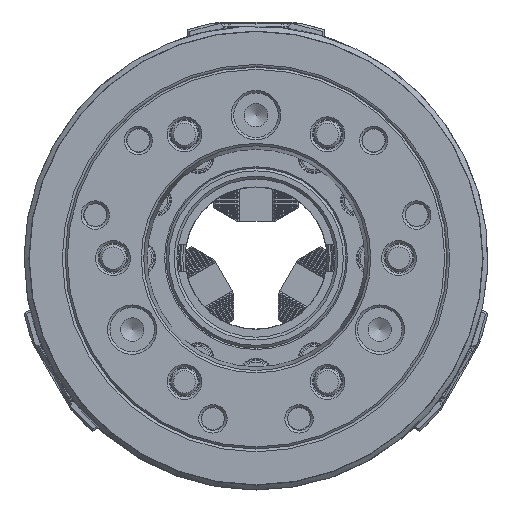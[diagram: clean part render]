
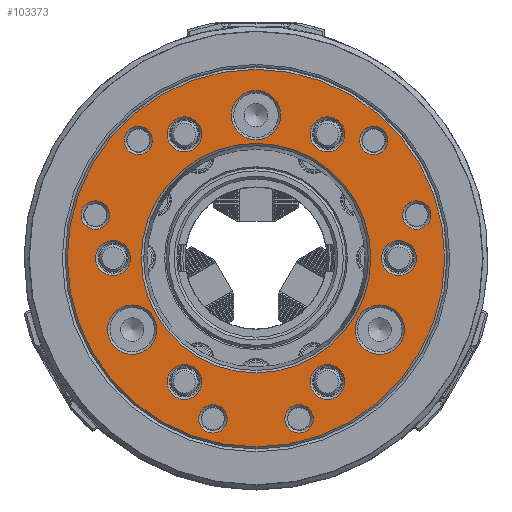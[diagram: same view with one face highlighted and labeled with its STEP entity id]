
A CAD part, front view. The second image highlights one B-rep face of the part: STEP entity #103373.
In plain terms, the highlighted planar face has unit normal (0, -1, 0).
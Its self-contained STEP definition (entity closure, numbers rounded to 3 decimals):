
#925=FACE_BOUND('',#37774,.T.);
#926=FACE_BOUND('',#37775,.T.);
#927=FACE_BOUND('',#37776,.T.);
#928=FACE_BOUND('',#37777,.T.);
#929=FACE_BOUND('',#37778,.T.);
#930=FACE_BOUND('',#37779,.T.);
#931=FACE_BOUND('',#37780,.T.);
#932=FACE_BOUND('',#37781,.T.);
#933=FACE_BOUND('',#37782,.T.);
#934=FACE_BOUND('',#37783,.T.);
#935=FACE_BOUND('',#37784,.T.);
#936=FACE_BOUND('',#37785,.T.);
#937=FACE_BOUND('',#37786,.T.);
#938=FACE_BOUND('',#37787,.T.);
#939=FACE_BOUND('',#37788,.T.);
#940=FACE_BOUND('',#37789,.T.);
#1620=PLANE('',#108989);
#32413=FACE_OUTER_BOUND('',#37773,.T.);
#37773=EDGE_LOOP('',(#71835));
#37774=EDGE_LOOP('',(#71836));
#37775=EDGE_LOOP('',(#71837));
#37776=EDGE_LOOP('',(#71838));
#37777=EDGE_LOOP('',(#71839));
#37778=EDGE_LOOP('',(#71840));
#37779=EDGE_LOOP('',(#71841));
#37780=EDGE_LOOP('',(#71842));
#37781=EDGE_LOOP('',(#71843));
#37782=EDGE_LOOP('',(#71844));
#37783=EDGE_LOOP('',(#71845));
#37784=EDGE_LOOP('',(#71846));
#37785=EDGE_LOOP('',(#71847));
#37786=EDGE_LOOP('',(#71848));
#37787=EDGE_LOOP('',(#71849));
#37788=EDGE_LOOP('',(#71850));
#37789=EDGE_LOOP('',(#71851));
#43708=CIRCLE('',#108990,69.2);
#43709=CIRCLE('',#108991,6.4);
#43710=CIRCLE('',#108992,6.4);
#43711=CIRCLE('',#108993,6.4);
#43712=CIRCLE('',#108994,6.4);
#43713=CIRCLE('',#108995,6.4);
#43714=CIRCLE('',#108996,6.4);
#43715=CIRCLE('',#108997,5.2);
#43716=CIRCLE('',#108998,5.2);
#43717=CIRCLE('',#108999,5.2);
#43718=CIRCLE('',#109000,5.2);
#43719=CIRCLE('',#109001,5.2);
#43720=CIRCLE('',#109002,5.2);
#43721=CIRCLE('',#109003,9.05);
#43722=CIRCLE('',#109004,9.05);
#43723=CIRCLE('',#109005,9.05);
#43724=CIRCLE('',#109006,42.067);
#45059=VERTEX_POINT('',#145110);
#45060=VERTEX_POINT('',#145112);
#45061=VERTEX_POINT('',#145114);
#45062=VERTEX_POINT('',#145116);
#45063=VERTEX_POINT('',#145118);
#45064=VERTEX_POINT('',#145120);
#45065=VERTEX_POINT('',#145122);
#45066=VERTEX_POINT('',#145124);
#45067=VERTEX_POINT('',#145126);
#45068=VERTEX_POINT('',#145128);
#45069=VERTEX_POINT('',#145130);
#45070=VERTEX_POINT('',#145132);
#45071=VERTEX_POINT('',#145134);
#45072=VERTEX_POINT('',#145136);
#45073=VERTEX_POINT('',#145138);
#45074=VERTEX_POINT('',#145140);
#45075=VERTEX_POINT('',#145142);
#55647=EDGE_CURVE('',#45059,#45059,#43708,.T.);
#55648=EDGE_CURVE('',#45060,#45060,#43709,.T.);
#55649=EDGE_CURVE('',#45061,#45061,#43710,.T.);
#55650=EDGE_CURVE('',#45062,#45062,#43711,.T.);
#55651=EDGE_CURVE('',#45063,#45063,#43712,.T.);
#55652=EDGE_CURVE('',#45064,#45064,#43713,.T.);
#55653=EDGE_CURVE('',#45065,#45065,#43714,.T.);
#55654=EDGE_CURVE('',#45066,#45066,#43715,.T.);
#55655=EDGE_CURVE('',#45067,#45067,#43716,.T.);
#55656=EDGE_CURVE('',#45068,#45068,#43717,.T.);
#55657=EDGE_CURVE('',#45069,#45069,#43718,.T.);
#55658=EDGE_CURVE('',#45070,#45070,#43719,.T.);
#55659=EDGE_CURVE('',#45071,#45071,#43720,.T.);
#55660=EDGE_CURVE('',#45072,#45072,#43721,.T.);
#55661=EDGE_CURVE('',#45073,#45073,#43722,.T.);
#55662=EDGE_CURVE('',#45074,#45074,#43723,.T.);
#55663=EDGE_CURVE('',#45075,#45075,#43724,.T.);
#71835=ORIENTED_EDGE('',*,*,#55647,.T.);
#71836=ORIENTED_EDGE('',*,*,#55648,.T.);
#71837=ORIENTED_EDGE('',*,*,#55649,.T.);
#71838=ORIENTED_EDGE('',*,*,#55650,.T.);
#71839=ORIENTED_EDGE('',*,*,#55651,.T.);
#71840=ORIENTED_EDGE('',*,*,#55652,.T.);
#71841=ORIENTED_EDGE('',*,*,#55653,.T.);
#71842=ORIENTED_EDGE('',*,*,#55654,.T.);
#71843=ORIENTED_EDGE('',*,*,#55655,.T.);
#71844=ORIENTED_EDGE('',*,*,#55656,.T.);
#71845=ORIENTED_EDGE('',*,*,#55657,.T.);
#71846=ORIENTED_EDGE('',*,*,#55658,.T.);
#71847=ORIENTED_EDGE('',*,*,#55659,.T.);
#71848=ORIENTED_EDGE('',*,*,#55660,.T.);
#71849=ORIENTED_EDGE('',*,*,#55661,.T.);
#71850=ORIENTED_EDGE('',*,*,#55662,.T.);
#71851=ORIENTED_EDGE('',*,*,#55663,.T.);
#103373=ADVANCED_FACE('',(#32413,#925,#926,#927,#928,#929,#930,#931,#932,
#933,#934,#935,#936,#937,#938,#939,#940),#1620,.T.);
#108989=AXIS2_PLACEMENT_3D('',#145109,#117570,#117571);
#108990=AXIS2_PLACEMENT_3D('',#145111,#117572,#117573);
#108991=AXIS2_PLACEMENT_3D('',#145113,#117574,#117575);
#108992=AXIS2_PLACEMENT_3D('',#145115,#117576,#117577);
#108993=AXIS2_PLACEMENT_3D('',#145117,#117578,#117579);
#108994=AXIS2_PLACEMENT_3D('',#145119,#117580,#117581);
#108995=AXIS2_PLACEMENT_3D('',#145121,#117582,#117583);
#108996=AXIS2_PLACEMENT_3D('',#145123,#117584,#117585);
#108997=AXIS2_PLACEMENT_3D('',#145125,#117586,#117587);
#108998=AXIS2_PLACEMENT_3D('',#145127,#117588,#117589);
#108999=AXIS2_PLACEMENT_3D('',#145129,#117590,#117591);
#109000=AXIS2_PLACEMENT_3D('',#145131,#117592,#117593);
#109001=AXIS2_PLACEMENT_3D('',#145133,#117594,#117595);
#109002=AXIS2_PLACEMENT_3D('',#145135,#117596,#117597);
#109003=AXIS2_PLACEMENT_3D('',#145137,#117598,#117599);
#109004=AXIS2_PLACEMENT_3D('',#145139,#117600,#117601);
#109005=AXIS2_PLACEMENT_3D('',#145141,#117602,#117603);
#109006=AXIS2_PLACEMENT_3D('',#145143,#117604,#117605);
#117570=DIRECTION('center_axis',(0.,-1.,0.));
#117571=DIRECTION('ref_axis',(-1.,0.,0.));
#117572=DIRECTION('center_axis',(0.,-1.,0.));
#117573=DIRECTION('ref_axis',(0.,0.,
1.));
#117574=DIRECTION('center_axis',(0.,1.,0.));
#117575=DIRECTION('ref_axis',(0.866,0.,-0.5));
#117576=DIRECTION('center_axis',(0.,1.,0.));
#117577=DIRECTION('ref_axis',(0.866,0.,0.5));
#117578=DIRECTION('center_axis',(0.,1.,0.));
#117579=DIRECTION('ref_axis',(0.,0.,
1.));
#117580=DIRECTION('center_axis',(0.,1.,0.));
#117581=DIRECTION('ref_axis',(-0.866,0.,0.5));
#117582=DIRECTION('center_axis',(0.,1.,0.));
#117583=DIRECTION('ref_axis',(-0.866,0.,-0.5));
#117584=DIRECTION('center_axis',(0.,1.,0.));
#117585=DIRECTION('ref_axis',(0.,0.,
-1.));
#117586=DIRECTION('center_axis',(0.,1.,0.));
#117587=DIRECTION('ref_axis',(-0.866,0.,-0.5));
#117588=DIRECTION('center_axis',(0.,1.,0.));
#117589=DIRECTION('ref_axis',(-0.866,0.,-0.5));
#117590=DIRECTION('center_axis',(0.,1.,0.));
#117591=DIRECTION('ref_axis',(0.866,0.,-0.5));
#117592=DIRECTION('center_axis',(0.,1.,0.));
#117593=DIRECTION('ref_axis',(0.866,0.,-0.5));
#117594=DIRECTION('center_axis',(0.,1.,0.));
#117595=DIRECTION('ref_axis',(0.,0.,
1.));
#117596=DIRECTION('center_axis',(0.,1.,0.));
#117597=DIRECTION('ref_axis',(0.,0.,
1.));
#117598=DIRECTION('center_axis',(0.,1.,0.));
#117599=DIRECTION('ref_axis',(-0.866,0.,-0.5));
#117600=DIRECTION('center_axis',(0.,1.,0.));
#117601=DIRECTION('ref_axis',(0.866,0.,-0.5));
#117602=DIRECTION('center_axis',(0.,1.,0.));
#117603=DIRECTION('ref_axis',(0.,0.,
1.));
#117604=DIRECTION('center_axis',(0.,1.,0.));
#117605=DIRECTION('ref_axis',(0.,0.,
1.));
#145109=CARTESIAN_POINT('Origin',(0.,-15.,-70.));
#145110=CARTESIAN_POINT('',(0.,-15.,-69.2));
#145111=CARTESIAN_POINT('Origin',(0.,-15.,0.));
#145112=CARTESIAN_POINT('',(20.657,-15.,48.58));
#145113=CARTESIAN_POINT('Origin',(26.2,-15.,45.38));
#145114=CARTESIAN_POINT('',(-31.743,-15.,42.18));
#145115=CARTESIAN_POINT('Origin',(-26.2,-15.,45.38));
#145116=CARTESIAN_POINT('',(-52.4,-15.,-6.4));
#145117=CARTESIAN_POINT('Origin',(-52.4,-15.,0.));
#145118=CARTESIAN_POINT('',(-20.657,-15.,-48.58));
#145119=CARTESIAN_POINT('Origin',(-26.2,-15.,-45.38));
#145120=CARTESIAN_POINT('',(31.743,-15.,-42.18));
#145121=CARTESIAN_POINT('Origin',(26.2,-15.,-45.38));
#145122=CARTESIAN_POINT('',(52.4,-15.,6.4));
#145123=CARTESIAN_POINT('Origin',(52.4,-15.,0.));
#145124=CARTESIAN_POINT('',(-54.418,-15.,18.388));
#145125=CARTESIAN_POINT('Origin',(-58.921,-15.,15.788));
#145126=CARTESIAN_POINT('',(-38.63,-15.,45.734));
#145127=CARTESIAN_POINT('Origin',(-43.134,-15.,43.134));
#145128=CARTESIAN_POINT('',(11.285,-15.,-56.321));
#145129=CARTESIAN_POINT('Origin',(15.788,-15.,-58.921));
#145130=CARTESIAN_POINT('',(-20.291,-15.,-56.321));
#145131=CARTESIAN_POINT('Origin',(-15.788,-15.,-58.921));
#145132=CARTESIAN_POINT('',(43.134,-15.,37.934));
#145133=CARTESIAN_POINT('Origin',(43.134,-15.,43.134));
#145134=CARTESIAN_POINT('',(58.921,-15.,10.588));
#145135=CARTESIAN_POINT('Origin',(58.921,-15.,15.788));
#145136=CARTESIAN_POINT('',(7.838,-15.,56.925));
#145137=CARTESIAN_POINT('Origin',(0.,-15.,52.4));
#145138=CARTESIAN_POINT('',(-53.217,-15.,-21.675));
#145139=CARTESIAN_POINT('Origin',(-45.38,-15.,-26.2));
#145140=CARTESIAN_POINT('',(45.38,-15.,-35.25));
#145141=CARTESIAN_POINT('Origin',(45.38,-15.,-26.2));
#145142=CARTESIAN_POINT('',(0.,-15.,-42.067));
#145143=CARTESIAN_POINT('Origin',(0.,-15.,0.));
